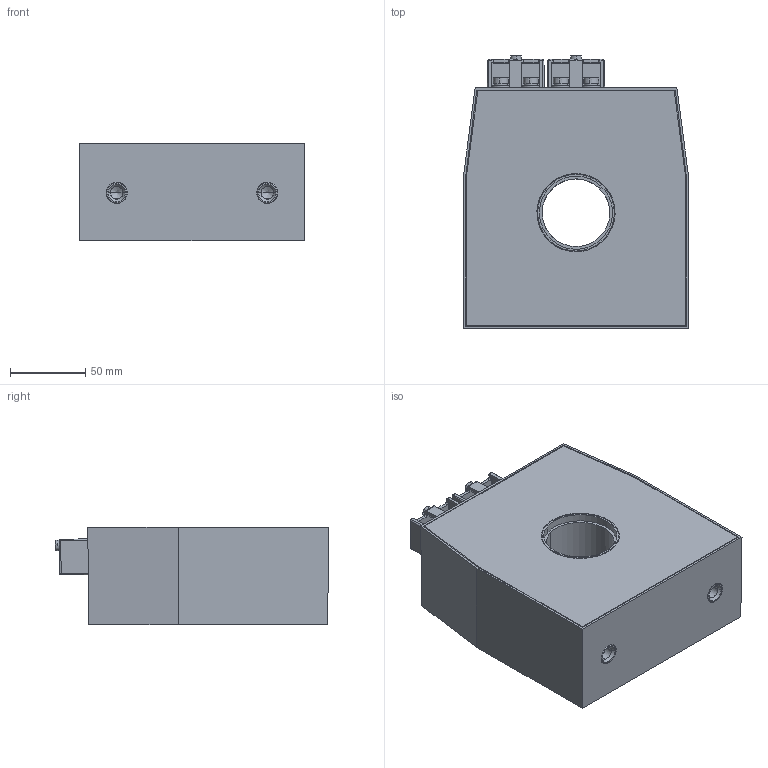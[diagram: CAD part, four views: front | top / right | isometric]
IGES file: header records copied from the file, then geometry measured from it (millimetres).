
Start section: IGES file generated from Kompas f.0 for Windows drawing by the IGES translator from Ascon Ltd., translator version IGESOUT-5.1.
Global section: file name: C:\Ðàáîòà\Èçâåùåíèÿ 5\ÒØÏ-ÍÒÇ-0.66-61...,71...,81... (ñáîðíûé)\Âåðñèÿ îò 21.05.24\3D ìîäåëü\ÒØÏ-ÍÒÇ-0,66-61À\ÒØÏ-ÍÒÇ-0,66-61À (45 ìì, 1-é ãàáàðèò).igs; native system: Kompas( 32 bit ) for Windows; preprocessor: 1.0; author: 123; organization: Microsoft; date: -17750727:092150; units: millimetre
Bounding box: 150 x 181.53 x 65 mm (x, y, z)
Volume: 349727.9 mm3; surface area: 208240.9 mm2
Topology: 27 solids, 27 shells, 530 faces, 1214 edges, 744 vertices
Faces by surface type: revolution 306, bspline 224
